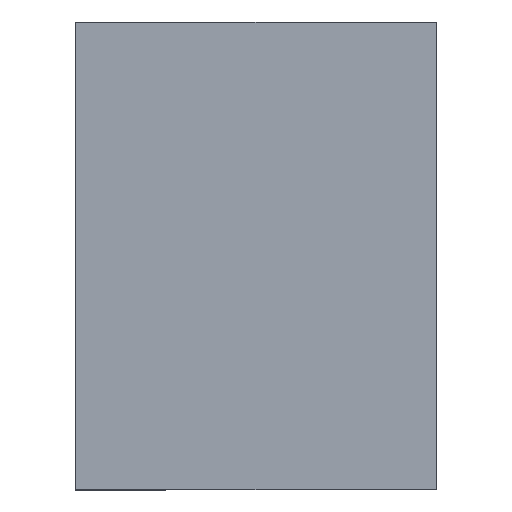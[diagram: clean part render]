
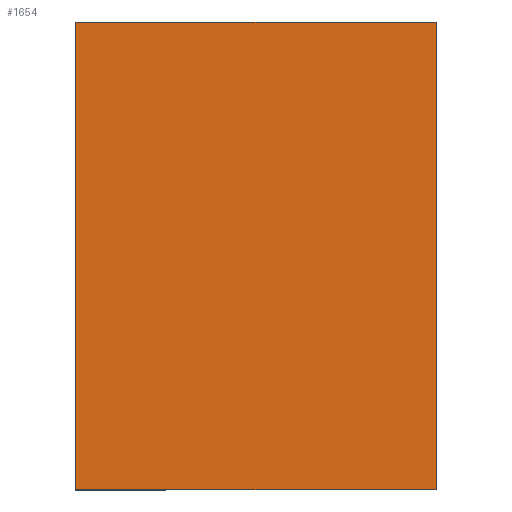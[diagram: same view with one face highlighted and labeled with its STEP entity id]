
A CAD part, top view. The second image highlights one B-rep face of the part: STEP entity #1654.
In plain terms, the highlighted planar face has unit normal (0, 0, 1).
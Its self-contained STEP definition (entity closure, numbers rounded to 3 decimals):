
#1654 = ADVANCED_FACE('',(#1655),#1669,.T.);
#1655 = FACE_BOUND('',#1656,.T.);
#1656 = EDGE_LOOP('',(#1657,#1680,#1696,#1712));
#1657 = ORIENTED_EDGE('',*,*,#1658,.T.);
#1658 = EDGE_CURVE('',#1659,#1661,#1663,.T.);
#1659 = VERTEX_POINT('',#1660);
#1660 = CARTESIAN_POINT('',(0.1,10.,3.135));
#1661 = VERTEX_POINT('',#1662);
#1662 = CARTESIAN_POINT('',(0.1,0.,3.135));
#1663 = SURFACE_CURVE('',#1664,(#1668),.PCURVE_S1.);
#1664 = LINE('',#1665,#1666);
#1665 = CARTESIAN_POINT('',(0.1,5.,3.135));
#1666 = VECTOR('',#1667,1.);
#1667 = DIRECTION('',(0.,-1.,0.));
#1668 = PCURVE('',#1669,#1674);
#1669 = PLANE('',#1670);
#1670 = AXIS2_PLACEMENT_3D('',#1671,#1672,#1673);
#1671 = CARTESIAN_POINT('',(5.45,5.,3.135));
#1672 = DIRECTION('',(0.,0.,1.));
#1673 = DIRECTION('',(1.,0.,0.));
#1674 = DEFINITIONAL_REPRESENTATION('',(#1675),#1679);
#1675 = LINE('',#1676,#1677);
#1676 = CARTESIAN_POINT('',(-5.35,0.));
#1677 = VECTOR('',#1678,1.);
#1678 = DIRECTION('',(0.,-1.));
#1679 = ( GEOMETRIC_REPRESENTATION_CONTEXT(2) 
PARAMETRIC_REPRESENTATION_CONTEXT() REPRESENTATION_CONTEXT('2D SPACE',''
  ) );
#1680 = ORIENTED_EDGE('',*,*,#1681,.F.);
#1681 = EDGE_CURVE('',#1682,#1661,#1684,.T.);
#1682 = VERTEX_POINT('',#1683);
#1683 = CARTESIAN_POINT('',(7.8,0.,3.135));
#1684 = SURFACE_CURVE('',#1685,(#1689),.PCURVE_S1.);
#1685 = LINE('',#1686,#1687);
#1686 = CARTESIAN_POINT('',(3.95,0.,3.135));
#1687 = VECTOR('',#1688,1.);
#1688 = DIRECTION('',(-1.,0.,0.));
#1689 = PCURVE('',#1669,#1690);
#1690 = DEFINITIONAL_REPRESENTATION('',(#1691),#1695);
#1691 = LINE('',#1692,#1693);
#1692 = CARTESIAN_POINT('',(-1.5,-5.));
#1693 = VECTOR('',#1694,1.);
#1694 = DIRECTION('',(-1.,0.));
#1695 = ( GEOMETRIC_REPRESENTATION_CONTEXT(2) 
PARAMETRIC_REPRESENTATION_CONTEXT() REPRESENTATION_CONTEXT('2D SPACE',''
  ) );
#1696 = ORIENTED_EDGE('',*,*,#1697,.T.);
#1697 = EDGE_CURVE('',#1682,#1698,#1700,.T.);
#1698 = VERTEX_POINT('',#1699);
#1699 = CARTESIAN_POINT('',(7.8,10.,3.135));
#1700 = SURFACE_CURVE('',#1701,(#1705),.PCURVE_S1.);
#1701 = LINE('',#1702,#1703);
#1702 = CARTESIAN_POINT('',(7.8,5.,3.135));
#1703 = VECTOR('',#1704,1.);
#1704 = DIRECTION('',(0.,1.,0.));
#1705 = PCURVE('',#1669,#1706);
#1706 = DEFINITIONAL_REPRESENTATION('',(#1707),#1711);
#1707 = LINE('',#1708,#1709);
#1708 = CARTESIAN_POINT('',(2.35,0.));
#1709 = VECTOR('',#1710,1.);
#1710 = DIRECTION('',(0.,1.));
#1711 = ( GEOMETRIC_REPRESENTATION_CONTEXT(2) 
PARAMETRIC_REPRESENTATION_CONTEXT() REPRESENTATION_CONTEXT('2D SPACE',''
  ) );
#1712 = ORIENTED_EDGE('',*,*,#1713,.F.);
#1713 = EDGE_CURVE('',#1659,#1698,#1714,.T.);
#1714 = SURFACE_CURVE('',#1715,(#1719),.PCURVE_S1.);
#1715 = LINE('',#1716,#1717);
#1716 = CARTESIAN_POINT('',(3.95,10.,3.135));
#1717 = VECTOR('',#1718,1.);
#1718 = DIRECTION('',(1.,0.,0.));
#1719 = PCURVE('',#1669,#1720);
#1720 = DEFINITIONAL_REPRESENTATION('',(#1721),#1725);
#1721 = LINE('',#1722,#1723);
#1722 = CARTESIAN_POINT('',(-1.5,5.));
#1723 = VECTOR('',#1724,1.);
#1724 = DIRECTION('',(1.,0.));
#1725 = ( GEOMETRIC_REPRESENTATION_CONTEXT(2) 
PARAMETRIC_REPRESENTATION_CONTEXT() REPRESENTATION_CONTEXT('2D SPACE',''
  ) );
